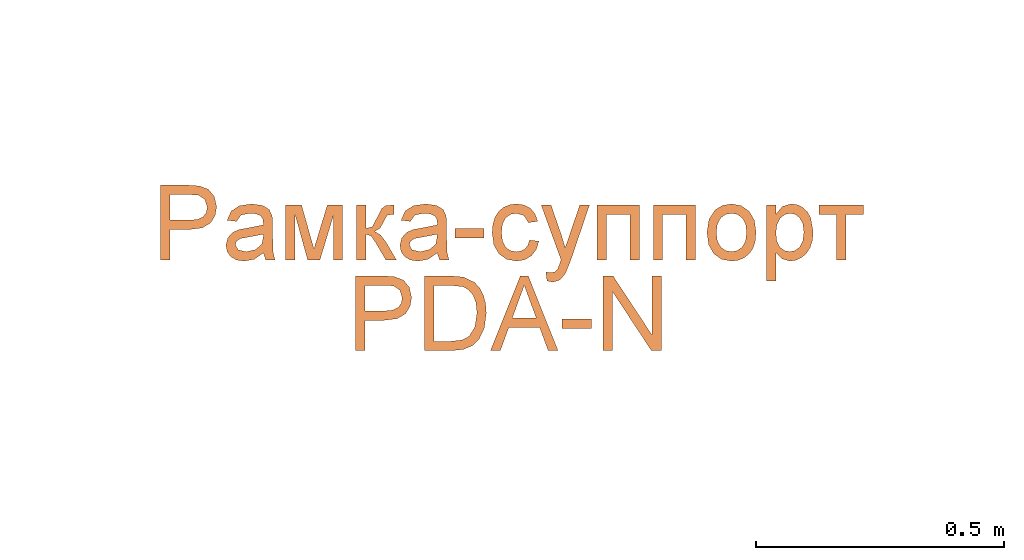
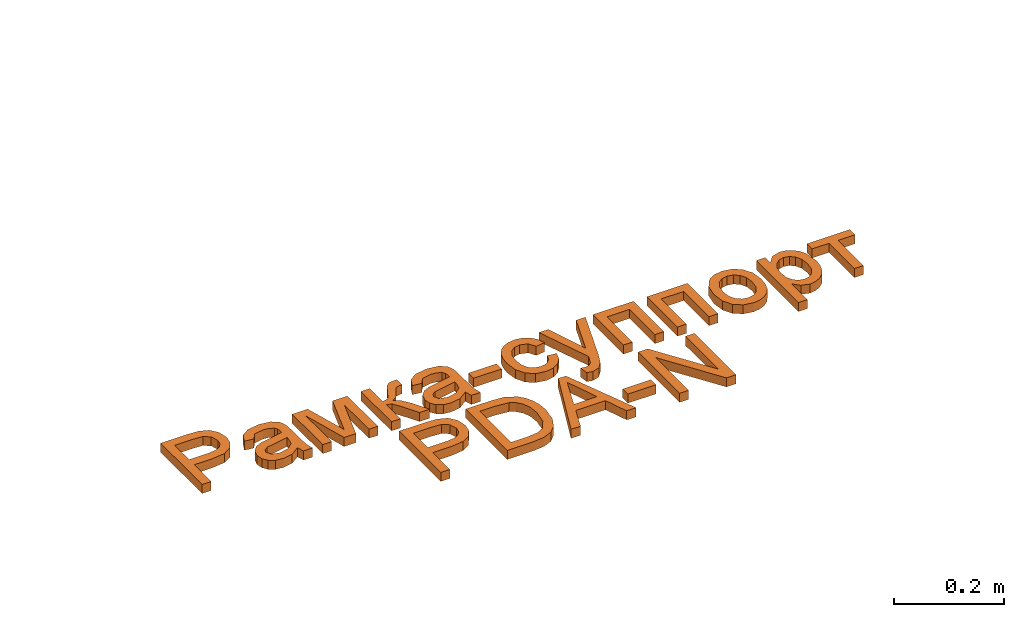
# One storey, part 10 of 71: 1 proxy.
"""IFC2X3 building model written with IfcOpenShell, lengths in millimetres."""

from ifc_helpers import new_model, entity, si_unit, converted_unit, derived_unit, direction, frame, frame_2d, origin, place, context, subcontext, project, spatial, polyline, rectangle, outline, extrude, element, save


model = new_model("IFC2X3")

# Units and contexts
model_context = context("Model", 3, precision=0.01, world=origin(), true_north=direction((6.12303176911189e-17, 1.0)))
body_context = subcontext(model_context, "Body", "Model", "MODEL_VIEW")
ifc_project = project(units=[si_unit("LENGTHUNIT", "METRE", prefix="MILLI"), si_unit("AREAUNIT", "SQUARE_METRE"), si_unit("VOLUMEUNIT", "CUBIC_METRE"), converted_unit("PLANEANGLEUNIT", "DEGREE", entity("IfcRatioMeasure", 0.0174532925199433), si_unit("PLANEANGLEUNIT", "RADIAN"), dimensions=[0, 0, 0, 0, 0, 0, 0]), si_unit("MASSUNIT", "GRAM", prefix="KILO"), derived_unit("MASSDENSITYUNIT", [(si_unit("MASSUNIT", "GRAM", prefix="KILO"), 1), (si_unit("LENGTHUNIT", "METRE"), -3)]), si_unit("TIMEUNIT", "SECOND"), si_unit("FREQUENCYUNIT", "HERTZ"), si_unit("THERMODYNAMICTEMPERATUREUNIT", "DEGREE_CELSIUS"), derived_unit("THERMALTRANSMITTANCEUNIT", [(si_unit("MASSUNIT", "GRAM", prefix="KILO"), 1), (si_unit("THERMODYNAMICTEMPERATUREUNIT", "KELVIN"), -1), (si_unit("TIMEUNIT", "SECOND"), -3)]), derived_unit("VOLUMETRICFLOWRATEUNIT", [(si_unit("LENGTHUNIT", "METRE"), 3), (si_unit("TIMEUNIT", "SECOND"), -1)]), si_unit("ELECTRICCURRENTUNIT", "AMPERE"), si_unit("ELECTRICVOLTAGEUNIT", "VOLT"), si_unit("POWERUNIT", "WATT"), si_unit("FORCEUNIT", "NEWTON", prefix="KILO"), si_unit("ILLUMINANCEUNIT", "LUX"), si_unit("LUMINOUSFLUXUNIT", "LUMEN"), si_unit("LUMINOUSINTENSITYUNIT", "CANDELA"), derived_unit("USERDEFINED", [(si_unit("MASSUNIT", "GRAM", prefix="KILO"), -1), (si_unit("LENGTHUNIT", "METRE"), -2), (si_unit("TIMEUNIT", "SECOND"), 3), (si_unit("LUMINOUSFLUXUNIT", "LUMEN"), 1)]), derived_unit("LINEARVELOCITYUNIT", [(si_unit("LENGTHUNIT", "METRE"), 1), (si_unit("TIMEUNIT", "SECOND"), -1)]), si_unit("PRESSUREUNIT", "PASCAL"), derived_unit("USERDEFINED", [(si_unit("LENGTHUNIT", "METRE"), -2), (si_unit("MASSUNIT", "GRAM", prefix="KILO"), 1), (si_unit("TIMEUNIT", "SECOND"), -2)])], contexts=[model_context])

# Site, building, storey
site_placement = place(None, origin())
site = spatial("IfcSite", under=ifc_project, at=site_placement, Name="Default", CompositionType="ELEMENT")
building_placement = place(site_placement, origin())
building = spatial("IfcBuilding", under=site, at=building_placement, Name="Наименование здания", CompositionType="ELEMENT")
storey_placement = place(building_placement, origin())
storey = spatial("IfcBuildingStorey", under=building, at=storey_placement, Name="Этаж 01", CompositionType="ELEMENT", Elevation=0.0)

# Proxy
proxy_placement = place(storey_placement, origin())
element("IfcBuildingElementProxy", 1, at=proxy_placement, inside=storey, Name="Текст модели:150 мм Arial", ObjectType="Текст модели:150 мм Arial", context=body_context, shape_type="SweptSolid", body=[
    extrude(outline(polyline([(-64.7670401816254, -90.6454161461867), (-45.9314820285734, -90.6454161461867), (-45.9314820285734, -29.4298521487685), (-7.63496633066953, -29.4298521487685), (19.1238502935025, -26.1005200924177), (36.1245969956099, -16.1125239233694), (45.2158808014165, -1.31447066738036), (48.2463087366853, 16.4450326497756), (43.7581483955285, 36.9912420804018), (31.8939540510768, 51.5593690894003), (13.5918247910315, 58.6043092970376), (-8.92255331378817, 60.0390490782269), (-64.7670401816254, 60.0390490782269), (-64.7670401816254, -90.6454161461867)]), holes=[polyline([(-45.9314820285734, -10.5942939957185), (-45.9314820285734, 41.2034909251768), (-6.97277873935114, 41.2034909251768), (11.8627794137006, 39.9159039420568), (24.5731023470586, 31.3810416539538), (29.4107505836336, 15.7828450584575), (27.3598084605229, 4.64521765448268), (21.206982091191, -3.67811248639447), (10.1705222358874, -8.86524861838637), (-6.53132034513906, -10.5942939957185), (-45.9314820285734, -10.5942939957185)])]), frame((1311.33146656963, -21913.4625717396, 0.0)), (0.0, 0.0, 1.0), 20.0),
    extrude(outline(polyline([(49.6524096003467, 10.0181831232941), (64.5432257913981, 10.018183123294), (70.4995522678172, 27.8871625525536), (54.2883394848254, 29.3355270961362), (22.942008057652, 38.776071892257), (0.710484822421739, 46.1865796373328), (-15.2157084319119, 50.5258565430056), (-29.1700318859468, 49.089125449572), (-41.2222862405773, 39.5147959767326), (-51.6167739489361, 18.9177724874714), (-55.8804334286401, -5.85565960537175), (-50.8431495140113, -24.8298167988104), (-35.9697834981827, -38.3769694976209), (-27.7798345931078, -21.2525308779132), (-37.104044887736, -8.56625349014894), (-34.515602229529, 10.6580228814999), (-29.3910674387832, 21.7272506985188), (-22.7658175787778, 28.6898706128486), (-16.3179778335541, 30.6413818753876), (-7.93316863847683, 29.2133758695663), (-3.98942903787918, 27.7824615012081), (-8.17747109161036, -5.25653692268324), (-10.6437625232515, -21.6131678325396), (-8.95109552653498, -36.0793630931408), (-1.68600590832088, -48.4864376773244), (11.3085579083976, -56.6182193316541), (24.0777236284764, -58.3588743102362), (36.0005558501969, -54.7859509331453), (46.0329524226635, -45.8907241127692), (53.1308111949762, -31.6644687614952), (55.9868232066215, -11.3466480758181), (49.6524096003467, 10.0181831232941)]), holes=[polyline([(13.9144507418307, 21.9308360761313), (18.9401012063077, 20.1392847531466), (31.8183305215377, 12.7055101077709), (38.2807120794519, -2.4005249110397), (36.5298778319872, -21.9040040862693), (27.4499699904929, -36.2305979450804), (16.0084717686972, -38.3304356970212), (9.94744424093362, -33.5956214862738), (7.55677023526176, -25.0624858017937), (9.78457593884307, -8.72330506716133), (13.9144507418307, 21.9308360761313)])]), frame((1428.55001250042, -21946.0449352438, 0.0), z_axis=(0.0, 0.0, 1.0), x_axis=(0.316227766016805, -0.948683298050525, 0.0)), (0.0, 0.0, 1.0), 20.0),
    extrude(outline(polyline([(-60.8759806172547, -57.6754072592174), (49.7829235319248, -57.6754072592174), (49.7829235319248, -38.8398491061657), (-43.5855268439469, -38.8398491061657), (49.7829235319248, -12.9409566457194), (49.7829235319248, 11.780713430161), (-39.3180956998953, 38.8568282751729), (49.7829235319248, 38.8568282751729), (49.7829235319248, 57.6923864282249), (-60.8759806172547, 57.6923864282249), (-60.8759806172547, 26.6431460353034), (27.7100038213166, -0.285816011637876), (-60.8759806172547, -25.2650034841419), (-60.8759806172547, -57.6754072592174)])), frame((1556.16542394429, -21954.3250643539, 0.0), z_axis=(0.0, 0.0, 1.0), x_axis=(0.0, -1.0, 0.0)), (0.0, 0.0, 1.0), 20.0),
    extrude(outline(polyline([(-45.4943568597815, -44.3029556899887), (65.164547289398, -44.3029556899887), (65.164547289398, -25.467397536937), (13.366762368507, -25.467397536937), (16.8432472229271, -15.3506426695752), (31.2090391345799, -5.41782879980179), (65.164547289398, 14.3374343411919), (65.164547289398, 35.7481664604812), (30.473275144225, 15.588233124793), (15.0314283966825, 3.92637387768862), (7.70137964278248, -7.95621456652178), (1.13468602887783, 2.69396919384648), (-12.2746126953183, 10.2907323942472), (-24.6722359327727, 16.7654555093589), (-26.6587987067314, 25.9625053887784), (-26.5484341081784, 31.0392769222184), (-45.4943568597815, 31.0392769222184), (-45.4943568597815, 27.4340333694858), (-44.0596170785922, 13.6568526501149), (-38.522993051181, 6.07848354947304), (-21.5084507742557, -2.51156103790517), (-1.78997583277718, -12.849045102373), (1.59453852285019, -25.467397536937), (-45.4943568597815, -25.467397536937), (-45.4943568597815, -44.3029556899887)])), frame((1686.41410329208, -21938.9434405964, 0.0), z_axis=(0.0, 0.0, 1.0), x_axis=(0.0, -1.0, 0.0)), (0.0, 0.0, 1.0), 20.0),
    extrude(outline(polyline([(49.6524096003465, 10.0181831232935), (64.5432257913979, 10.0181831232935), (70.4995522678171, 27.8871625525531), (54.2883394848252, 29.3355270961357), (22.9420080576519, 38.7760718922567), (0.710484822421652, 46.1865796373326), (-15.215708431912, 50.5258565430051), (-29.170031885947, 49.0891254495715), (-41.2222862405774, 39.5147959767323), (-51.6167739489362, 18.9177724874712), (-55.8804334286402, -5.855659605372), (-50.8431495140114, -24.8298167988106), (-35.9697834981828, -38.3769694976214), (-27.7798345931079, -21.2525308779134), (-37.1040448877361, -8.5662534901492), (-34.5156022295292, 10.6580228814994), (-29.3910674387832, 21.7272506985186), (-22.7658175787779, 28.6898706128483), (-16.3179778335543, 30.6413818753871), (-7.93316863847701, 29.2133758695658), (-3.98942903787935, 27.7824615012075), (-8.17747109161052, -5.25653692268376), (-10.6437625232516, -21.6131678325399), (-8.95109552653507, -36.0793630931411), (-1.68600590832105, -48.4864376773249), (11.3085579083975, -56.6182193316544), (24.0777236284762, -58.3588743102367), (36.0005558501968, -54.7859509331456), (46.0329524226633, -45.8907241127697), (53.1308111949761, -31.6644687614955), (55.9868232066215, -11.3466480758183), (49.6524096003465, 10.0181831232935)]), holes=[polyline([(13.9144507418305, 21.9308360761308), (18.9401012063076, 20.1392847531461), (31.8183305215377, 12.7055101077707), (38.2807120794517, -2.40052491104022), (36.5298778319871, -21.9040040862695), (27.4499699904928, -36.2305979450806), (16.008471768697, -38.3304356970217), (9.94744424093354, -33.595621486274), (7.55677023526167, -25.0624858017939), (9.78457593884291, -8.72330506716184), (13.9144507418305, 21.9308360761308)])]), frame((1779.36228310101, -21946.0449352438, 0.0), z_axis=(0.0, 0.0, 1.0), x_axis=(0.316227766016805, -0.948683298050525, 0.0)), (0.0, 0.0, 1.0), 20.0),
    extrude(rectangle(XDim=58.8611192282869, YDim=18.8355581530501, at=frame_2d((0.0, -2.16626716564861e-12), x_axis=(1.0, 0.0))), frame((1869.31506782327, -21949.9557581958, 0.0)), (0.0, 0.0, 1.0), 20.0),
    extrude(outline(polyline([(6.77218430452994, -32.6880162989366), (3.47919135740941, -51.3823432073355), (21.0352248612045, -51.2935104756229), (36.0385414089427, -45.5877688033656), (47.635647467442, -34.9742466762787), (54.9730495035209, -20.1620725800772), (57.331557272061, 0.0758389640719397), (51.3286597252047, 18.3174486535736), (37.0810593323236, 33.2854261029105), (14.705458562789, 43.7024409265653), (-1.73746788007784, 47.2596707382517), (-16.8916566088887, 47.4079950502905), (-30.2412319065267, 43.9163864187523), (-41.2703180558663, 36.553817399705), (-49.6896409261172, 26.2753303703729), (-55.2099263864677, 14.0359677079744), (-57.6963038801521, -1.85137033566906), (-54.8486013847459, -16.0419747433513), (-46.8993177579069, -28.0408309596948), (-34.080951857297, -37.3529244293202), (-26.2876013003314, -20.044390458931), (-37.1997991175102, -7.54215198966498), (-37.251801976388, 8.35215978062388), (-31.4457718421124, 19.3006318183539), (-21.9310317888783, 26.4799459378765), (-8.59621128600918, 28.9704724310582), (8.67006019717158, 25.852581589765), (24.9370752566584, 18.6926998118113), (34.641263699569, 9.25213062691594), (38.4812527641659, -1.85665774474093), (37.1556696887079, -14.0211970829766), (32.9052994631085, -22.9177981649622), (26.4119100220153, -29.2856740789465), (17.694529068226, -32.6880162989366), (6.77218430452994, -32.6880162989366)])), frame((1961.32154331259, -21947.9902945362, 0.0), z_axis=(0.0, 0.0, -1.0), x_axis=(-0.294292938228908, -0.955715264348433, 0.0)), (0.0, 0.0, -1.0), 20.0),
    extrude(outline(polyline([(-14.0627784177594, -63.6897846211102), (-2.30982667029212, -63.6897846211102), (11.2235996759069, -56.6043892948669), (19.2677475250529, -41.4042581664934), (24.1483344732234, -15.3233337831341), (39.1861017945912, 103.403530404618), (19.8673420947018, 99.4533686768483), (11.3764058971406, 32.0809099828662), (8.47999679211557, 9.33454668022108), (-3.68750084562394, 31.9296007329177), (-36.7914083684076, 87.8681928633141), (-56.2543379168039, 83.8885523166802), (5.04686591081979, -16.1124679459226), (4.51901081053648, -20.8765214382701), (2.25144479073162, -35.4962883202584), (-1.95815357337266, -42.2710621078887), (-10.300083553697, -46.0982994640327), (-20.0027604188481, -46.3925118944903), (-14.0627784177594, -63.6897846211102)])), frame((2052.42219955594, -21986.906438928, 0.0), z_axis=(0.0, 0.0, 1.0), x_axis=(0.979728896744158, -0.200327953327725, 0.0)), (0.0, 0.0, 1.0), 20.0),
    extrude(outline(polyline([(-60.0383416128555, -42.3800058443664), (50.620562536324, -42.3800058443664), (50.620562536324, -23.5444476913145), (-41.2027834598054, -23.5444476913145), (-41.2027834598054, 23.5444476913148), (50.620562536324, 23.5444476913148), (50.620562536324, 42.3800058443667), (-60.0383416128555, 42.3800058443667), (-60.0383416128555, -42.3800058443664)])), frame((2169.50677588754, -21953.4874253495, 0.0), z_axis=(0.0, 0.0, 1.0), x_axis=(0.0, -1.0, 0.0)), (0.0, 0.0, 1.0), 20.0),
    extrude(outline(polyline([(-60.0383416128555, -42.380005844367), (50.620562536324, -42.380005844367), (50.620562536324, -23.544447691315), (-41.2027834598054, -23.544447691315), (-41.2027834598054, 23.5444476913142), (50.620562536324, 23.5444476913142), (50.620562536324, 42.3800058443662), (-60.0383416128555, 42.3800058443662), (-60.0383416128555, -42.380005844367)])), frame((2282.52012480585, -21953.4874253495, 0.0), z_axis=(0.0, 0.0, 1.0), x_axis=(0.0, -1.0, 0.0)), (0.0, 0.0, 1.0), 20.0),
    extrude(outline(polyline([(-11.1946000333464, -52.2426443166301), (13.7256178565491, -52.2426443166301), (33.0962748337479, -44.5759588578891), (46.3022849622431, -30.4665992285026), (52.7285623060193, -11.1385767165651), (52.8795704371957, 2.2616004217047), (49.5396030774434, 15.0586597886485), (42.9102470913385, 26.3612191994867), (33.1930893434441, 35.2778964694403), (19.4724914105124, 41.8007990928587), (0.832814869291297, 45.9220345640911), (-22.8762356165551, 45.7172545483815), (-41.8930612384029, 37.8901775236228), (-55.1425891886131, 23.7682718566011), (-61.5497466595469, 4.67900591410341), (-60.995114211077, -13.6515433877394), (-53.9645370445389, -29.8701936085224), (-37.0646721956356, -44.5487589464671), (-11.1946000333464, -52.2426443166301)]), holes=[polyline([(-8.64857835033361, -33.5799173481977), (-25.2263685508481, -29.0848574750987), (-36.3325046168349, -20.946182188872), (-42.1575488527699, -10.2052592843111), (-42.892063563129, 2.09654344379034), (-38.8516378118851, 13.6120893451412), (-30.3014219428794, 22.3586496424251), (-17.5331679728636, 27.2345846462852), (-0.838627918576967, 27.1382546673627), (16.1172354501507, 22.5908646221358), (27.4101305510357, 14.4263394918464), (33.3060231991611, 3.69417972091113), (34.0708792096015, -8.55611424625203), (30.013430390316, -20.1946478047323), (21.4625840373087, -28.9457632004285), (8.53602088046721, -33.7580048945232), (-8.64857835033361, -33.5799173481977)])]), frame((2401.72870871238, -21952.7046542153, 0.0), z_axis=(0.0, 0.0, 1.0), x_axis=(0.137105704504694, -0.990556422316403, 0.0)), (0.0, 0.0, 1.0), 20.0),
    extrude(outline(polyline([(-51.3898957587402, -92.5503727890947), (-32.554337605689, -92.5503727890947), (-32.554337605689, -35.4550871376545), (-20.6165668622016, -47.6871634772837), (-4.22742397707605, -52.5248117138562), (7.98165973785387, -50.7175914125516), (19.5929352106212, -45.2959305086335), (29.5625372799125, -36.4851567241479), (36.8466007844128, -24.5105977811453), (41.302571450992, -10.1034191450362), (42.7878950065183, 6.00521371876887), (37.5271824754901, 35.0311031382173), (30.9972770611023, 46.7849328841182), (21.9289858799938, 55.5589184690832), (10.7913584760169, 61.0219660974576), (-1.94655560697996, 62.8429819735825), (-19.5313149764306, 57.6374517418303), (-32.554337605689, 42.020861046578), (-32.554337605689, 60.4885372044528), (-51.3898957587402, 60.4885372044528), (-51.3898957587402, -92.5503727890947)]), holes=[polyline([(-32.554337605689, 4.27616834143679), (-30.3792353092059, 21.3596884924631), (-23.8539284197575, 33.8354866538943), (-14.5051272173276, 41.4644395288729), (-3.8595419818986, 44.0074238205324), (6.74465652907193, 41.6161908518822), (15.7485683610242, 34.4424919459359), (21.9013947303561, 22.467933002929), (23.9523368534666, 5.67411992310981), (21.8508109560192, -11.8462600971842), (15.5462332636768, -24.0875334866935), (6.29859960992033, -31.2888235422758), (-4.63209417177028, -33.6892535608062), (-15.3880440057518, -31.3715969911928), (-24.4057514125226, -24.4186272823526), (-30.5171910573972, -12.6096152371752), (-32.554337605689, 4.27616834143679)])]), frame((2519.91115732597, -21953.9376209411, 0.0)), (0.0, 0.0, 1.0), 20.0),
    extrude(outline(polyline([(-37.0825051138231, -44.7344506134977), (-18.2469469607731, -44.7344506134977), (-18.2469469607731, -9.41777907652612), (73.5763990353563, -9.41777907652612), (73.5763990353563, 9.41777907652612), (-18.2469469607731, 9.41777907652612), (-18.2469469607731, 44.7344506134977), (-37.0825051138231, 44.7344506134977), (-37.0825051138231, -44.7344506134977)])), frame((2619.20572679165, -21930.5315888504, 0.0), z_axis=(0.0, 0.0, 1.0), x_axis=(0.0, -1.0, 0.0)), (0.0, 0.0, 1.0), 20.0),
    extrude(outline(polyline([(-64.7670401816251, -90.6454161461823), (-45.9314820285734, -90.6454161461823), (-45.9314820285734, -29.4298521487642), (-7.63496633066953, -29.4298521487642), (19.1238502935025, -26.1005200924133), (36.1245969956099, -16.1125239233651), (45.2158808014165, -1.31447066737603), (48.2463087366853, 16.4450326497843), (43.7581483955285, 36.9912420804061), (31.8939540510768, 51.559369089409), (13.5918247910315, 58.604309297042), (-8.92255331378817, 60.0390490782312), (-64.7670401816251, 60.0390490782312), (-64.7670401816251, -90.6454161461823)]), holes=[polyline([(-45.9314820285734, -10.5942939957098), (-45.9314820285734, 41.2034909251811), (-6.97277873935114, 41.2034909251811), (11.8627794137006, 39.9159039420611), (24.5731023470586, 31.3810416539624), (29.4107505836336, 15.7828450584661), (27.3598084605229, 4.64521765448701), (21.206982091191, -3.67811248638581), (10.1705222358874, -8.86524861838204), (-6.53132034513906, -10.5942939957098), (-45.9314820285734, -10.5942939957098)])]), frame((1704.52374301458, -22096.4247985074, 0.0)), (0.0, 0.0, 1.0), 20.0),
    extrude(outline(polyline([(-83.6734459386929, -77.1041245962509), (-29.19012245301, -77.1041245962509), (-4.96509307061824, -74.5289506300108), (13.0427305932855, -66.968975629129), (26.8015172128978, -53.3021595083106), (37.1022130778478, -31.3579984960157), (41.1121268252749, -0.952551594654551), (39.6314017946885, 18.0853416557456), (35.1892267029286, 34.8791547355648), (27.7672074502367, 49.1529761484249), (17.3469499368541, 60.6308943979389), (-4.79954617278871, 71.4098368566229), (-31.6917200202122, 73.5803406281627), (-83.6734459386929, 73.5803406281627), (-83.6734459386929, -77.1041245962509)]), holes=[polyline([(-64.8378877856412, -58.2685664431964), (-64.8378877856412, 54.7447824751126), (-32.0228138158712, 54.7447824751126), (-5.31458096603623, 51.7281501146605), (5.33100426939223, 45.4373679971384), (14.2383470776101, 35.0263075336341), (20.2670132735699, 19.8695693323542), (22.2765686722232, -0.658245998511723), (18.174684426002, -29.1507065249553), (6.71516027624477, -47.8575059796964), (-7.26435554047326, -55.5462396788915), (-31.507779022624, -58.2685664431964), (-64.8378877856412, -58.2685664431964)])]), frame((1862.34239015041, -22109.9660900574, 0.0)), (0.0, 0.0, 1.0), 20.0),
    extrude(outline(polyline([(-68.1639351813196, -49.4433401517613), (-48.2615192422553, -49.4433401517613), (-31.0446418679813, -2.35444476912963), (31.0170507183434, -2.35444476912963), (48.2707162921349, -49.4433401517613), (68.1731322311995, -49.4433401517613), (8.02442601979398, 101.241125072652), (-8.01522896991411, 101.241125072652), (-68.1639351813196, -49.4433401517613)]), holes=[polyline([(-24.1284603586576, 16.4811133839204), (-9.37639235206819, 56.7641918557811), (0.00459852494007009, 82.4055669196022), (10.5628117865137, 53.526830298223), (24.1376574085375, 16.4811133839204), (-24.1284603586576, 16.4811133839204)])]), frame((1979.96937344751, -22137.6268745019, 0.0)), (0.0, 0.0, 1.0), 20.0),
    extrude(rectangle(XDim=58.8611192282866, YDim=18.8355581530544, at=frame_2d((1.35003119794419e-13, 0.0), x_axis=(1.0, 0.0))), frame((2085.92398658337, -22132.9179849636, 0.0)), (0.0, 0.0, 1.0), 20.0),
    extrude(outline(polyline([(-58.8611192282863, -75.3459114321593), (-40.0255610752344, -75.3459114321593), (-40.0255610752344, 44.0685842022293), (38.701185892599, -75.3459114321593), (58.8611192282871, -75.3459114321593), (58.8611192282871, 75.3385537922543), (40.0255610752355, 75.3385537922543), (40.0255610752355, -44.0391536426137), (-38.7011858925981, 75.3385537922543), (-58.8611192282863, 75.3385537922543), (-58.8611192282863, -75.3459114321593)])), frame((2197.76011311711, -22111.7243032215, 0.0)), (0.0, 0.0, 1.0), 20.0),
])

save(model, "model.ifc")
